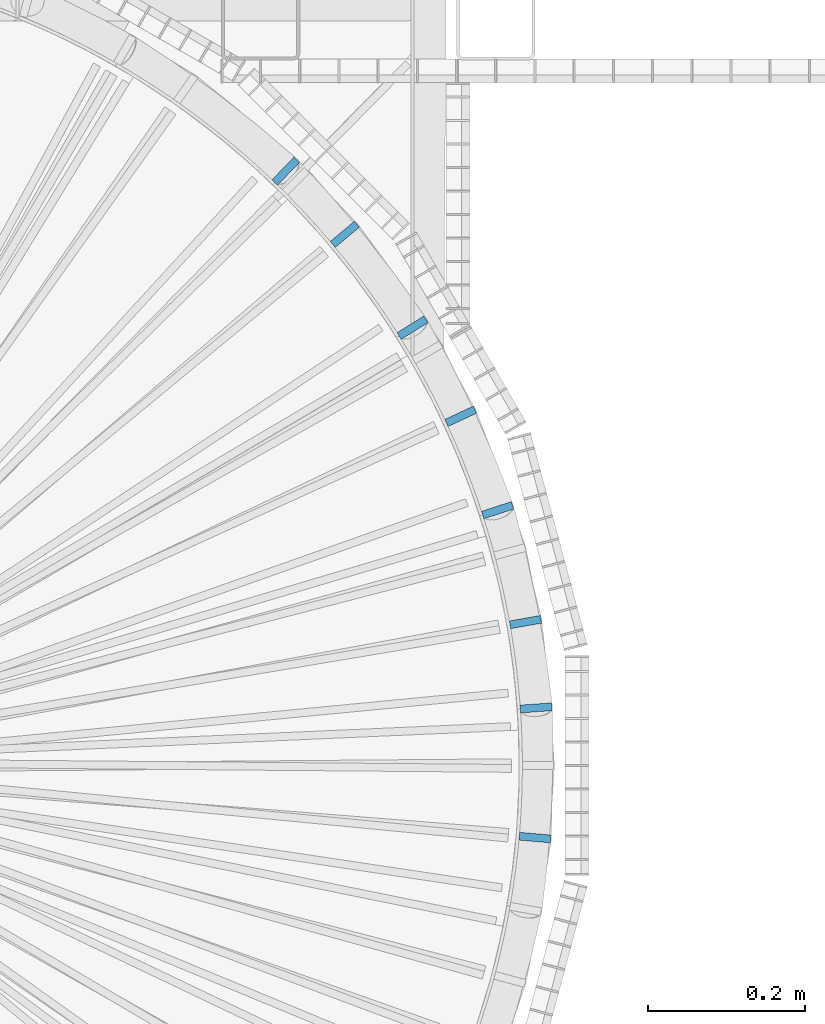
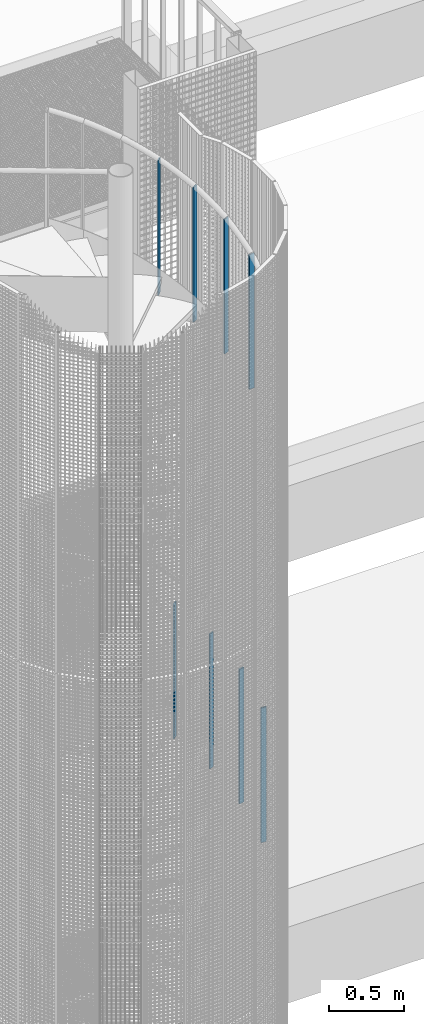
# One storey, part 16 of 1148: 8 columns, 8 elements without a shape of their own.
"""IFC2X3 building model written with IfcOpenShell, lengths in millimetres."""

from ifc_helpers import new_model, si_unit, frame, origin_with_axes, origin_2d_with_axis, place, context, subcontext, project, spatial, rectangle, extrude, material, type_object, element, aggregate, save


model = new_model("IFC2X3")

# Units and contexts
model_context = context("Model", 3, precision=1e-05, world=origin_with_axes())
body_context = subcontext(model_context, "Body", "Model", "MODEL_VIEW")
ifc_project = project(units=[si_unit("LENGTHUNIT", "METRE", prefix="MILLI"), si_unit("AREAUNIT", "SQUARE_METRE"), si_unit("VOLUMEUNIT", "CUBIC_METRE"), si_unit("MASSUNIT", "GRAM", prefix="KILO"), si_unit("TIMEUNIT", "SECOND"), si_unit("PLANEANGLEUNIT", "RADIAN"), si_unit("SOLIDANGLEUNIT", "STERADIAN"), si_unit("THERMODYNAMICTEMPERATUREUNIT", "DEGREE_CELSIUS"), si_unit("LUMINOUSINTENSITYUNIT", "LUMEN")], contexts=[model_context])

# Site, building, storey
site_placement = place(None, origin_with_axes())
site = spatial("IfcSite", under=ifc_project, at=site_placement, Name="Undefined", CompositionType="ELEMENT")
building_placement = place(site_placement, origin_with_axes())
building = spatial("IfcBuilding", under=site, at=building_placement, Name="Undefined", CompositionType="ELEMENT")
storey_placement = place(building_placement, origin_with_axes())
storey = spatial("IfcBuildingStorey", under=building, at=storey_placement, Name="Undefined", CompositionType="ELEMENT", Elevation=0.0)

# Assembly, column
assembly_1_placement = place(storey_placement, origin_with_axes())
assembly_1 = element("IfcElementAssembly", 1, at=assembly_1_placement, inside=storey, Name="MONTANT", AssemblyPlace="NOTDEFINED", PredefinedType="NOTDEFINED")
ifc_material = material(Name="STEEL/S235JR")
column_type = type_object("IfcColumnType", Name="PL10*40", PredefinedType="NOTDEFINED")
column_1_placement = place(assembly_1_placement, frame((732.169922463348, 758.18414955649, 16663.88), z_axis=(0.0, 0.0, 1.0), x_axis=(-0.694658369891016, -0.719339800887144, 0.0)))
column_1 = element("IfcColumn", 2, at=column_1_placement, type_object=column_type, material=ifc_material, Name="MONTANT", context=body_context, shape_type="SweptSolid", body=[
    extrude(rectangle(XDim=10.0, YDim=40.0, at=origin_2d_with_axis()), frame((0.0, 0.0, 1100.0), z_axis=(0.0, 0.0, -1.0), x_axis=(0.0, 1.0, 0.0)), (0.0, 0.0, 1.0), 1100.0),
])
aggregate(assembly_1, [column_1])

assembly_2_placement = place(storey_placement, origin_with_axes())
assembly_2 = element("IfcElementAssembly", 3, at=assembly_2_placement, inside=storey, Name="MONTANT", AssemblyPlace="NOTDEFINED", PredefinedType="NOTDEFINED")
column_2_placement = place(assembly_2_placement, frame((1002.41356817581, 325.703912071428, 16350.84), z_axis=(0.0, 0.0, 1.0), x_axis=(-0.951056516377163, -0.309016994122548, 0.0)))
column_2 = element("IfcColumn", 4, at=column_2_placement, type_object=column_type, material=ifc_material, Name="MONTANT", context=body_context, shape_type="SweptSolid", body=[
    extrude(rectangle(XDim=10.0, YDim=40.0, at=origin_2d_with_axis()), frame((0.0, 0.0, 1100.0), z_axis=(0.0, 0.0, -1.0), x_axis=(0.0, 1.0, 0.0)), (0.0, 0.0, 1.0), 1100.0),
])
aggregate(assembly_2, [column_2])

assembly_3_placement = place(storey_placement, origin_with_axes())
assembly_3 = element("IfcElementAssembly", 5, at=assembly_3_placement, inside=storey, Name="MONTANT", AssemblyPlace="NOTDEFINED", PredefinedType="NOTDEFINED")
column_3_placement = place(assembly_3_placement, frame((893.84269335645, 558.534904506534, 16507.36), z_axis=(0.0, 0.0, 1.0), x_axis=(-0.848048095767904, -0.52991926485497, 0.0)))
column_3 = element("IfcColumn", 6, at=column_3_placement, type_object=column_type, material=ifc_material, Name="MONTANT", context=body_context, shape_type="SweptSolid", body=[
    extrude(rectangle(XDim=10.0, YDim=40.0, at=origin_2d_with_axis()), frame((0.0, 0.0, 1100.0), z_axis=(0.0, 0.0, -1.0), x_axis=(0.0, 1.0, 0.0)), (0.0, 0.0, 1.0), 1100.0),
])
aggregate(assembly_3, [column_3])

assembly_4_placement = place(storey_placement, origin_with_axes())
assembly_4 = element("IfcElementAssembly", 7, at=assembly_4_placement, inside=storey, Name="MONTANT", AssemblyPlace="NOTDEFINED", PredefinedType="NOTDEFINED")
column_4_placement = place(assembly_4_placement, frame((1051.43250897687, 73.5233233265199, 16194.32), z_axis=(0.0, 0.0, 1.0), x_axis=(-0.997564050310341, -0.0697564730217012, 0.0)))
column_4 = element("IfcColumn", 8, at=column_4_placement, type_object=column_type, material=ifc_material, Name="MONTANT", context=body_context, shape_type="SweptSolid", body=[
    extrude(rectangle(XDim=10.0, YDim=40.0, at=origin_2d_with_axis()), frame((0.0, 0.0, 1100.0), z_axis=(0.0, 0.0, -1.0), x_axis=(0.0, 1.0, 0.0)), (0.0, 0.0, 1.0), 1100.0),
])
aggregate(assembly_4, [column_4])

assembly_5_placement = place(storey_placement, origin_with_axes())
assembly_5 = element("IfcElementAssembly", 9, at=assembly_5_placement, inside=storey, Name="MONTANT", AssemblyPlace="NOTDEFINED", PredefinedType="NOTDEFINED")
column_5_placement = place(assembly_5_placement, frame((807.410843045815, 677.498140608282, 13063.88), z_axis=(0.0, 0.0, 1.0), x_axis=(-0.76604444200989, -0.642787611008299, 0.0)))
column_5 = element("IfcColumn", 10, at=column_5_placement, type_object=column_type, material=ifc_material, Name="MONTANT", context=body_context, shape_type="SweptSolid", body=[
    extrude(rectangle(XDim=10.0, YDim=40.0, at=origin_2d_with_axis()), frame((0.0, 0.0, 1100.0), z_axis=(0.0, 0.0, -1.0), x_axis=(0.0, 1.0, 0.0)), (0.0, 0.0, 1.0), 1100.0),
])
aggregate(assembly_5, [column_5])

assembly_6_placement = place(storey_placement, origin_with_axes())
assembly_6 = element("IfcElementAssembly", 11, at=assembly_6_placement, inside=storey, Name="MONTANT", AssemblyPlace="NOTDEFINED", PredefinedType="NOTDEFINED")
column_6_placement = place(assembly_6_placement, frame((1037.98737168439, 183.025179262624, 12750.84), z_axis=(0.0, 0.0, 1.0), x_axis=(-0.984807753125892, -0.173648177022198, 0.0)))
column_6 = element("IfcColumn", 12, at=column_6_placement, type_object=column_type, material=ifc_material, Name="MONTANT", context=body_context, shape_type="SweptSolid", body=[
    extrude(rectangle(XDim=10.0, YDim=40.0, at=origin_2d_with_axis()), frame((0.0, 0.0, 1100.0), z_axis=(0.0, 0.0, -1.0), x_axis=(0.0, 1.0, 0.0)), (0.0, 0.0, 1.0), 1100.0),
])
aggregate(assembly_6, [column_6])

assembly_7_placement = place(storey_placement, origin_with_axes())
assembly_7 = element("IfcElementAssembly", 13, at=assembly_7_placement, inside=storey, Name="MONTANT", AssemblyPlace="NOTDEFINED", PredefinedType="NOTDEFINED")
column_7_placement = place(assembly_7_placement, frame((955.248407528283, 445.439647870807, 12907.36), z_axis=(0.0, 0.0, 1.0), x_axis=(-0.906307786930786, -0.422618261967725, 0.0)))
column_7 = element("IfcColumn", 14, at=column_7_placement, type_object=column_type, material=ifc_material, Name="MONTANT", context=body_context, shape_type="SweptSolid", body=[
    extrude(rectangle(XDim=10.0, YDim=40.0, at=origin_2d_with_axis()), frame((0.0, 0.0, 1100.0), z_axis=(0.0, 0.0, -1.0), x_axis=(0.0, 1.0, 0.0)), (0.0, 0.0, 1.0), 1100.0),
])
aggregate(assembly_7, [column_7])

assembly_8_placement = place(storey_placement, origin_with_axes())
assembly_8 = element("IfcElementAssembly", 15, at=assembly_8_placement, inside=storey, Name="MONTANT", AssemblyPlace="NOTDEFINED", PredefinedType="NOTDEFINED")
column_8_placement = place(assembly_8_placement, frame((1049.98921178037, -91.8621528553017, 12594.32), z_axis=(0.0, 0.0, 1.0), x_axis=(-0.996194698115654, 0.0871557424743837, 3.25160726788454e-10)))
column_8 = element("IfcColumn", 16, at=column_8_placement, type_object=column_type, material=ifc_material, Name="MONTANT", context=body_context, shape_type="SweptSolid", body=[
    extrude(rectangle(XDim=10.0, YDim=40.0, at=origin_2d_with_axis()), frame((0.0, 0.0, 1100.0), z_axis=(0.0, 0.0, -1.0), x_axis=(0.0, 1.0, 0.0)), (0.0, 0.0, 1.0), 1100.0),
])
aggregate(assembly_8, [column_8])

save(model, "model.ifc")
